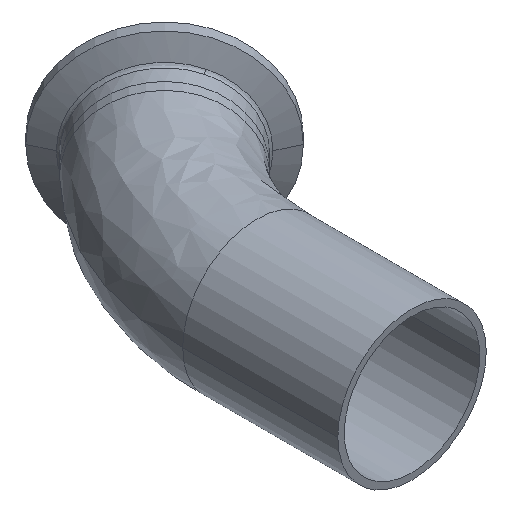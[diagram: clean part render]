
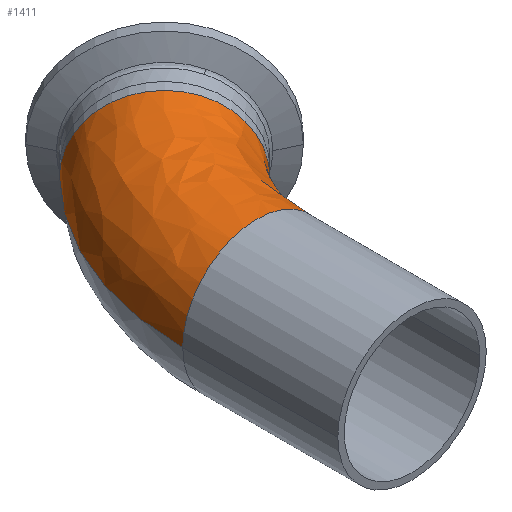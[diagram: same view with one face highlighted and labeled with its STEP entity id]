
A CAD part, isometric view. The second image highlights one B-rep face of the part: STEP entity #1411.
In plain terms, the highlighted free-form (B-spline) face has degree [3, 3] with [4, 4] control points.
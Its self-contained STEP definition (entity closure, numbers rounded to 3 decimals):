
#4 = VERTEX_POINT ( 'NONE', #1607 ) ;
#16 = CARTESIAN_POINT ( 'NONE',  ( 30.224, 66.783, 0. ) ) ;
#44 = CARTESIAN_POINT ( 'NONE',  ( 16.753, 80.253, 0. ) ) ;
#86 = VERTEX_POINT ( 'NONE', #1650 ) ;
#192 = CARTESIAN_POINT ( 'NONE',  ( 19.05, 50.06, 38.1 ) ) ;
#238 = CARTESIAN_POINT ( 'NONE',  ( 30.224, 66.783, 38.1 ) ) ;
#257 = DIRECTION ( 'NONE',  ( -1., 0., 0. ) ) ;
#278 = AXIS2_PLACEMENT_3D ( 'NONE', #1037, #1005, #1000 ) ;
#308 = EDGE_CURVE ( 'NONE', #86, #1558, #637, .T. ) ;
#333 = CARTESIAN_POINT ( 'NONE',  ( -11.208, 79.233, 0. ) ) ;
#359 =( BOUNDED_SURFACE ( )  B_SPLINE_SURFACE ( 3, 3, ( 
 ( #1385, #1671, #333, #1778 ),
 ( #1783, #1792, #1816, #1831 ),
 ( #1839, #192, #902, #238 ),
 ( #630, #1188, #653, #944 ) ),
 .UNSPECIFIED., .F., .F., .F. ) 
 B_SPLINE_SURFACE_WITH_KNOTS ( ( 4, 4 ),
 ( 4, 4 ),
 ( 0., 1. ),
 ( 0., 1. ),
 .UNSPECIFIED. ) 
 GEOMETRIC_REPRESENTATION_ITEM ( )  RATIONAL_B_SPLINE_SURFACE ( (
 ( 1., 0.949, 0.949, 1.),
 ( 0.333, 0.316, 0.316, 0.333),
 ( 0.333, 0.316, 0.316, 0.333),
 ( 1., 0.949, 0.949, 1.) ) ) 
 REPRESENTATION_ITEM ( '' )  SURFACE ( )  );
#364 = AXIS2_PLACEMENT_3D ( 'NONE', #412, #396, #257 ) ;
#396 = DIRECTION ( 'NONE',  ( 0., 0., -1. ) ) ;
#412 = CARTESIAN_POINT ( 'NONE',  ( 57.2, 39.807, 0. ) ) ;
#462 = EDGE_CURVE ( 'NONE', #1608, #86, #1031, .T. ) ;
#584 = CIRCLE ( 'NONE', #785, 19.05 ) ;
#630 = CARTESIAN_POINT ( 'NONE',  ( 19.05, 39.807, 0. ) ) ;
#637 = CIRCLE ( 'NONE', #278, 38.15 ) ;
#653 = CARTESIAN_POINT ( 'NONE',  ( 22.974, 59.533, 0. ) ) ;
#758 = AXIS2_PLACEMENT_3D ( 'NONE', #818, #810, #806 ) ;
#785 = AXIS2_PLACEMENT_3D ( 'NONE', #44, #1754, #1660 ) ;
#790 = CARTESIAN_POINT ( 'NONE',  ( -19.05, 39.807, 0. ) ) ;
#806 = DIRECTION ( 'NONE',  ( -1., 0., 0. ) ) ;
#810 = DIRECTION ( 'NONE',  ( 0., 1., 0. ) ) ;
#818 = CARTESIAN_POINT ( 'NONE',  ( 0., 39.807, 0. ) ) ;
#902 = CARTESIAN_POINT ( 'NONE',  ( 22.974, 59.533, 38.1 ) ) ;
#944 = CARTESIAN_POINT ( 'NONE',  ( 30.224, 66.783, 0. ) ) ;
#985 = EDGE_LOOP ( 'NONE', ( #1183, #1366, #1425, #1144 ) ) ;
#1000 = DIRECTION ( 'NONE',  ( -1., 0., 0. ) ) ;
#1005 = DIRECTION ( 'NONE',  ( 0., 0., -1. ) ) ;
#1031 = CIRCLE ( 'NONE', #758, 19.05 ) ;
#1037 = CARTESIAN_POINT ( 'NONE',  ( 57.2, 39.807, 0. ) ) ;
#1051 = EDGE_CURVE ( 'NONE', #1558, #4, #584, .T. ) ;
#1144 = ORIENTED_EDGE ( 'NONE', *, *, #1495, .F. ) ;
#1183 = ORIENTED_EDGE ( 'NONE', *, *, #462, .T. ) ;
#1188 = CARTESIAN_POINT ( 'NONE',  ( 19.05, 50.06, 0. ) ) ;
#1312 = CIRCLE ( 'NONE', #364, 76.25 ) ;
#1366 = ORIENTED_EDGE ( 'NONE', *, *, #308, .T. ) ;
#1385 = CARTESIAN_POINT ( 'NONE',  ( -19.05, 39.807, 0. ) ) ;
#1411 = ADVANCED_FACE ( 'NONE', ( #1845 ), #359, .T. ) ;
#1425 = ORIENTED_EDGE ( 'NONE', *, *, #1051, .T. ) ;
#1495 = EDGE_CURVE ( 'NONE', #1608, #4, #1312, .T. ) ;
#1558 = VERTEX_POINT ( 'NONE', #16 ) ;
#1607 = CARTESIAN_POINT ( 'NONE',  ( 3.283, 93.724, 0. ) ) ;
#1608 = VERTEX_POINT ( 'NONE', #790 ) ;
#1650 = CARTESIAN_POINT ( 'NONE',  ( 19.05, 39.807, 0. ) ) ;
#1660 = DIRECTION ( 'NONE',  ( -0.707, 0.707, 0. ) ) ;
#1671 = CARTESIAN_POINT ( 'NONE',  ( -19.05, 60.3, 0. ) ) ;
#1754 = DIRECTION ( 'NONE',  ( -0.707, -0.707, 0. ) ) ;
#1778 = CARTESIAN_POINT ( 'NONE',  ( 3.283, 93.724, 0. ) ) ;
#1783 = CARTESIAN_POINT ( 'NONE',  ( -19.05, 39.807, 38.1 ) ) ;
#1792 = CARTESIAN_POINT ( 'NONE',  ( -19.05, 60.3, 38.1 ) ) ;
#1816 = CARTESIAN_POINT ( 'NONE',  ( -11.208, 79.233, 38.1 ) ) ;
#1831 = CARTESIAN_POINT ( 'NONE',  ( 3.283, 93.724, 38.1 ) ) ;
#1839 = CARTESIAN_POINT ( 'NONE',  ( 19.05, 39.807, 38.1 ) ) ;
#1845 = FACE_OUTER_BOUND ( 'NONE', #985, .T. ) ;
